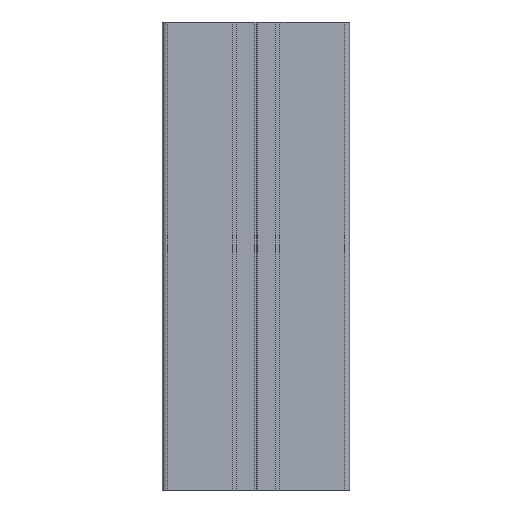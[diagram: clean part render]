
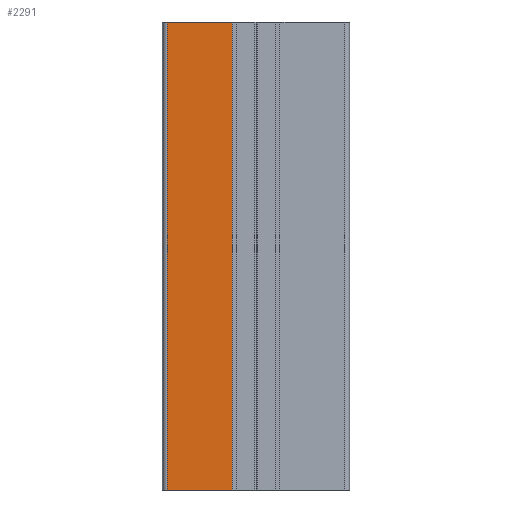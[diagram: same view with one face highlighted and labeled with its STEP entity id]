
A CAD part, front view. The second image highlights one B-rep face of the part: STEP entity #2291.
In plain terms, the highlighted planar face has unit normal (0, -1, 0).
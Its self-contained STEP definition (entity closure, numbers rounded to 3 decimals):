
#181 = CARTESIAN_POINT ( 'NONE',  ( 1., 0., 0. ) ) ;
#197 = VECTOR ( 'NONE', #674, 1000. ) ;
#274 = LINE ( 'NONE', #1831, #197 ) ;
#368 = AXIS2_PLACEMENT_3D ( 'NONE', #1020, #2314, #1033 ) ;
#494 = EDGE_CURVE ( 'NONE', #1774, #2046, #624, .T. ) ;
#588 = VECTOR ( 'NONE', #2642, 1000. ) ;
#614 = ORIENTED_EDGE ( 'NONE', *, *, #494, .F. ) ;
#624 = LINE ( 'NONE', #1741, #588 ) ;
#666 = EDGE_CURVE ( 'NONE', #1774, #1298, #274, .T. ) ;
#674 = DIRECTION ( 'NONE',  ( 0., 0., -1. ) ) ;
#879 = DIRECTION ( 'NONE',  ( 0., 0., 1. ) ) ;
#884 = EDGE_CURVE ( 'NONE', #2741, #2046, #2695, .T. ) ;
#1020 = CARTESIAN_POINT ( 'NONE',  ( 0., 0., -100. ) ) ;
#1033 = DIRECTION ( 'NONE',  ( 0., 0., -1. ) ) ;
#1136 = CARTESIAN_POINT ( 'NONE',  ( 0., 0., -100. ) ) ;
#1140 = VECTOR ( 'NONE', #1583, 1000. ) ;
#1255 = LINE ( 'NONE', #1136, #1140 ) ;
#1298 = VERTEX_POINT ( 'NONE', #1752 ) ;
#1525 = CARTESIAN_POINT ( 'NONE',  ( 14.906, 0., 0. ) ) ;
#1583 = DIRECTION ( 'NONE',  ( 1., 0., 0. ) ) ;
#1641 = EDGE_LOOP ( 'NONE', ( #2230, #614, #1676, #2795 ) ) ;
#1676 = ORIENTED_EDGE ( 'NONE', *, *, #666, .T. ) ;
#1705 = EDGE_CURVE ( 'NONE', #1298, #2741, #1255, .T. ) ;
#1741 = CARTESIAN_POINT ( 'NONE',  ( 0., 0., 0. ) ) ;
#1752 = CARTESIAN_POINT ( 'NONE',  ( 1., 0., -100. ) ) ;
#1774 = VERTEX_POINT ( 'NONE', #181 ) ;
#1801 = CARTESIAN_POINT ( 'NONE',  ( 14.906, 0., -100. ) ) ;
#1831 = CARTESIAN_POINT ( 'NONE',  ( 1., 0., -100. ) ) ;
#2046 = VERTEX_POINT ( 'NONE', #1525 ) ;
#2107 = PLANE ( 'NONE',  #368 ) ;
#2230 = ORIENTED_EDGE ( 'NONE', *, *, #884, .T. ) ;
#2291 = ADVANCED_FACE ( 'NONE', ( #2457 ), #2107, .T. ) ;
#2314 = DIRECTION ( 'NONE',  ( 0., -1., 0. ) ) ;
#2457 = FACE_OUTER_BOUND ( 'NONE', #1641, .T. ) ;
#2642 = DIRECTION ( 'NONE',  ( 1., 0., 0. ) ) ;
#2670 = CARTESIAN_POINT ( 'NONE',  ( 14.906, 0., -100. ) ) ;
#2695 = LINE ( 'NONE', #1801, #2727 ) ;
#2727 = VECTOR ( 'NONE', #879, 1000. ) ;
#2741 = VERTEX_POINT ( 'NONE', #2670 ) ;
#2795 = ORIENTED_EDGE ( 'NONE', *, *, #1705, .T. ) ;
